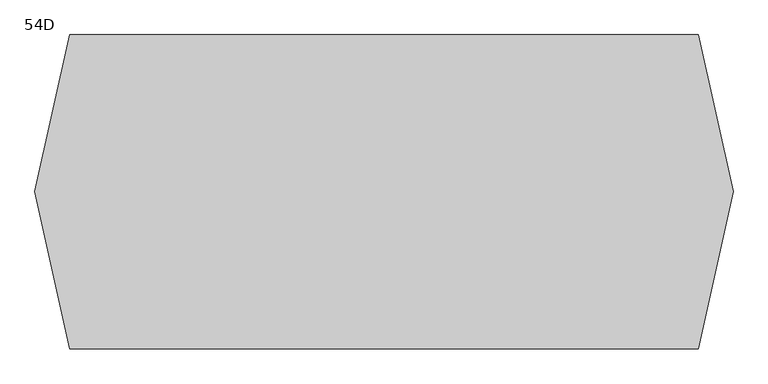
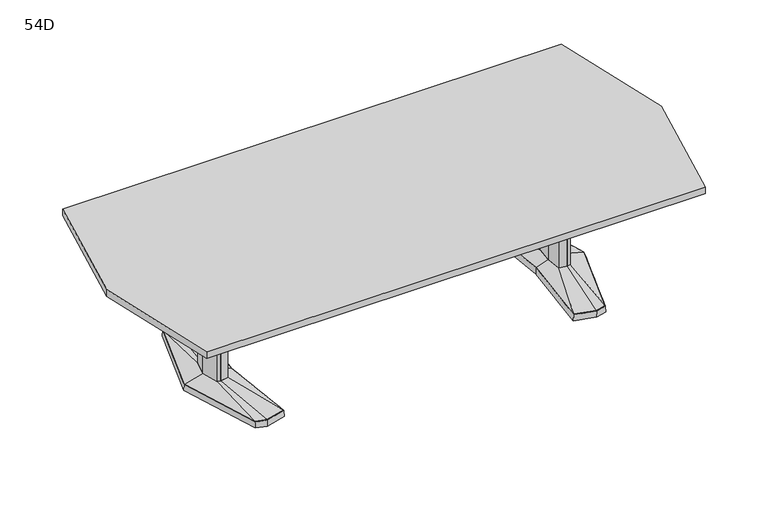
"""IFC4 building model written with IfcOpenShell, lengths in millimetres: furniture geometry, Coalesse_AM_Table_Conference_ETable2_Faceted_10ft_AluminiumBase : 54D."""

import ifcopenshell
import ifcopenshell.guid

model = None  # the IFC model being written
_history = None  # IfcOwnerHistory: only IFC2X3 demands one
_inside = {}  # id of a spatial element -> (the spatial element, [elements in it])
_under = {}  # id of a project, library or spatial element -> (it, [spatial elements below it])
_declared = {}  # id of a project -> (the project, [libraries it declares])
_typed = {}  # id of a type object -> (the type object, [elements of that type])
_made_of = {}  # id of a material, layer set ... -> (it, [elements and type objects made of it])


def new_model(schema):
    """Start an empty IFC model of exactly this schema.

    Asked for "IFC4X3", IfcOpenShell would pick the latest addendum, in which some entities
    have other attributes; the version numbers below select the first issue.
    IFC2X3 requires an IfcOwnerHistory on every rooted entity: one is made here for all.
    """
    global model, _history
    if schema == "IFC4X3":
        model = ifcopenshell.file(schema_version=(4, 3, 0, 0))
    else:
        model = ifcopenshell.file(schema=schema)
    _inside.clear()
    _under.clear()
    _declared.clear()
    _typed.clear()
    _made_of.clear()
    _history = None
    if model.schema == "IFC2X3":
        org = make("IfcOrganization", Name="unknown")
        user = make(
            "IfcPersonAndOrganization",
            ThePerson=make("IfcPerson", FamilyName="unknown"),
            TheOrganization=org,
        )
        app = make(
            "IfcApplication",
            ApplicationDeveloper=org,
            Version="unknown",
            ApplicationFullName="unknown",
            ApplicationIdentifier="unknown",
        )
        _history = make(
            "IfcOwnerHistory",
            OwningUser=user,
            OwningApplication=app,
            ChangeAction="ADDED",
            CreationDate=0,
        )
    return model


def make(cls, **values):
    """One entity of the class cls with the attributes given. An attribute that is None is left unset."""
    return model.create_entity(
        cls, **{name: value for name, value in values.items() if value is not None}
    )


def rooted(cls, **values):
    """An entity with a GlobalId (a new one), such as an element, a storey or a relation."""
    return make(cls, GlobalId=ifcopenshell.guid.new(), OwnerHistory=_history, **values)


def si_unit(unit_type, name, prefix=None):
    """IfcSIUnit, for example si_unit("LENGTHUNIT", "METRE", prefix="MILLI")."""
    return make("IfcSIUnit", UnitType=unit_type, Prefix=prefix, Name=name)


def assignment(units):
    """IfcUnitAssignment: the units of a project."""
    return None if units is None else make("IfcUnitAssignment", Units=units)


def point(xyz):
    """IfcCartesianPoint."""
    return None if xyz is None else make("IfcCartesianPoint", Coordinates=xyz)


def direction(xyz):
    """IfcDirection."""
    return None if xyz is None else make("IfcDirection", DirectionRatios=xyz)


def frame(location, z_axis=None, x_axis=None):
    """IfcAxis2Placement3D, a coordinate frame: its origin and axes. An axis left out is left unset."""
    return make(
        "IfcAxis2Placement3D",
        Location=point(location),
        Axis=direction(z_axis),
        RefDirection=direction(x_axis),
    )


def origin():
    """The frame at (0, 0, 0) with its axes left unset."""
    return frame((0.0, 0.0, 0.0))


def place(relative_to, where):
    """IfcLocalPlacement: puts the frame where relative to a parent placement (None: the world)."""
    return make(
        "IfcLocalPlacement", PlacementRelTo=relative_to, RelativePlacement=where
    )


def context(
    kind, dimensions, precision=None, world=None, true_north=None, identifier=None
):
    """IfcGeometricRepresentationContext, for example the 3D "Model" context."""
    return make(
        "IfcGeometricRepresentationContext",
        ContextIdentifier=identifier,
        ContextType=kind,
        CoordinateSpaceDimension=dimensions,
        Precision=precision,
        WorldCoordinateSystem=world,
        TrueNorth=true_north,
    )


def project(units=None, contexts=None):
    """IfcProject with its units and contexts."""
    return rooted(
        "IfcProject",
        Name="project",
        RepresentationContexts=contexts,
        UnitsInContext=assignment(units),
    )


def spatial(cls, under=None, at=None, **own):
    """A site, building, storey or space (cls), placed at a placement, below another one or the project."""
    s = rooted(cls, ObjectPlacement=at, **own)
    if under is not None:
        _under.setdefault(under.id(), (under, []))[1].append(s)
    return s


def polyline(points):
    """IfcPolyline through the points."""
    return make("IfcPolyline", Points=[point(p) for p in points])


def outline(outer, holes=None, kind="AREA"):
    """IfcArbitraryClosedProfileDef: a profile drawn as a closed curve; with holes, ...WithVoids."""
    if holes is None:
        return make("IfcArbitraryClosedProfileDef", ProfileType=kind, OuterCurve=outer)
    return make(
        "IfcArbitraryProfileDefWithVoids",
        ProfileType=kind,
        OuterCurve=outer,
        InnerCurves=holes,
    )


def extrude(swept, where, along, depth):
    """IfcExtrudedAreaSolid: the profile swept, set in the frame where, extruded along a direction by depth."""
    return make(
        "IfcExtrudedAreaSolid",
        SweptArea=swept,
        Position=where,
        ExtrudedDirection=direction(along),
        Depth=depth,
    )


def faces_of(points, faces, orient=None, outer=None):
    """IfcFace entities. A face is a list of loops; a loop is a list of indices into points, from 0.

    orient and outer hold one flag for each loop. By default every Orientation is true, the
    first loop of a face is its IfcFaceOuterBound and the others are IfcFaceBound.
    """
    made = []
    for i, loops in enumerate(faces):
        bounds = []
        for j, loop in enumerate(loops):
            is_outer = j == 0 if outer is None else outer[i][j]
            bounds.append(
                make(
                    "IfcFaceOuterBound" if is_outer else "IfcFaceBound",
                    Bound=make("IfcPolyLoop", Polygon=[points[k] for k in loop]),
                    Orientation=True if orient is None else orient[i][j],
                )
            )
        made.append(make("IfcFace", Bounds=bounds))
    return made


def faceted_brep(points, faces, orient=None, outer=None, voids=None):
    """IfcFacetedBrep: a solid bounded by flat faces; with voids (closed shells), ...WithVoids."""
    shared = [point(p) for p in points]
    hull = make("IfcClosedShell", CfsFaces=faces_of(shared, faces, orient, outer))
    if voids is None:
        return make("IfcFacetedBrep", Outer=hull)
    return make(
        "IfcFacetedBrepWithVoids",
        Outer=hull,
        Voids=[
            make(cls, CfsFaces=faces_of(shared, fs, o, b)) for cls, fs, o, b in voids
        ],
    )


def shape(context_of_items, identifier, shape_type, items):
    """IfcShapeRepresentation: the items that make up one representation, for example the "Body"."""
    return make(
        "IfcShapeRepresentation",
        ContextOfItems=context_of_items,
        RepresentationIdentifier=identifier,
        RepresentationType=shape_type,
        Items=items,
    )


def source(mapping_origin, context_of_items, identifier, shape_type, items):
    """IfcRepresentationMap: a shape defined once, which mapped items show again and again."""
    return make(
        "IfcRepresentationMap",
        MappingOrigin=mapping_origin,
        MappedRepresentation=shape(context_of_items, identifier, shape_type, items),
    )


def transform(
    local_origin,
    x_axis=None,
    y_axis=None,
    z_axis=None,
    scale=None,
    scale2=None,
    scale3=None,
    uniform=True,
):
    """IfcCartesianTransformationOperator3D, or its non-uniform kind. x_axis, y_axis, z_axis: its Axis1, 2, 3."""
    if uniform:
        return make(
            "IfcCartesianTransformationOperator3D",
            Axis1=direction(x_axis),
            Axis2=direction(y_axis),
            LocalOrigin=point(local_origin),
            Scale=scale,
            Axis3=direction(z_axis),
        )
    return make(
        "IfcCartesianTransformationOperator3DnonUniform",
        Axis1=direction(x_axis),
        Axis2=direction(y_axis),
        LocalOrigin=point(local_origin),
        Scale=scale,
        Axis3=direction(z_axis),
        Scale2=scale2,
        Scale3=scale3,
    )


def mapped(mapping_source, mapping_target):
    """IfcMappedItem: shows the shape of a source again, moved by a transform."""
    return make(
        "IfcMappedItem", MappingSource=mapping_source, MappingTarget=mapping_target
    )


def made_of(thing, what):
    """Note that an element or type object is made of a material, layer set ...; save() writes the relation."""
    if what is not None:
        _made_of.setdefault(what.id(), (what, []))[1].append(thing)
    return thing


def element(
    cls,
    number,
    at=None,
    inside=None,
    cuts=None,
    type_object=None,
    material=None,
    context=None,
    identifier="Body",
    shape_type=None,
    held_by="IfcProductDefinitionShape",
    body=None,
    shapes=None,
    **own,
):
    """One element of the class cls, such as IfcWall. Its Tag is "e" and its number.

    at: its placement. inside: the storey or other place that contains it. cuts: it is an
    opening in that element (IfcRelVoidsElement). A single representation is given by context,
    identifier, shape_type and body (its items); several are given by shapes. held_by: the class
    of the entity that holds the representations. save() writes the other relations.
    """
    e = rooted(cls, Tag="e%d" % number, ObjectPlacement=at, **own)
    if body is not None:
        shapes = [shape(context, identifier, shape_type, body)]
    if shapes is not None:
        e.Representation = make(held_by, Representations=shapes)
    if inside is not None:
        _inside.setdefault(inside.id(), (inside, []))[1].append(e)
    if cuts is not None:
        rooted(
            "IfcRelVoidsElement", RelatingBuildingElement=cuts, RelatedOpeningElement=e
        )
    if type_object is not None:
        _typed.setdefault(type_object.id(), (type_object, []))[1].append(e)
    return made_of(e, material)


def aggregate(whole, parts):
    """IfcRelAggregates: a whole, such as a stair, and the parts it consists of."""
    return rooted("IfcRelAggregates", RelatingObject=whole, RelatedObjects=parts)


def save(model, path):
    """Write the relations noted so far, then the file.

    IfcRelAggregates (storeys below a building ...), IfcRelContainedInSpatialStructure (elements
    in a storey), IfcRelDefinesByType, IfcRelAssociatesMaterial and IfcRelDeclares: one each for
    every whole, place, type object, material and project.
    """
    for whole, parts in _under.values():
        aggregate(whole, parts)
    for where, things in _inside.values():
        rooted(
            "IfcRelContainedInSpatialStructure",
            RelatedElements=things,
            RelatingStructure=where,
        )
    for kind, things in _typed.values():
        rooted("IfcRelDefinesByType", RelatedObjects=things, RelatingType=kind)
    for what, things in _made_of.values():
        rooted("IfcRelAssociatesMaterial", RelatedObjects=things, RelatingMaterial=what)
    for by, libraries in _declared.values():
        rooted("IfcRelDeclares", RelatingContext=by, RelatedDefinitions=libraries)
    model.write(path)


def plane_surface(at):
    """IfcPlane: the flat surface through the origin of the frame at, square to its z axis."""
    return make("IfcPlane", Position=at)


def spline_surface(u_degree, v_degree, points, u_multiplicities, v_multiplicities, u_knots, v_knots, weights=None):
    """IfcBSplineSurfaceWithKnots; with weights, IfcRationalBSplineSurfaceWithKnots. points: one row for each step in u."""
    own = dict(
        UDegree=u_degree,
        VDegree=v_degree,
        ControlPointsList=[[point(p) for p in row] for row in points],
        SurfaceForm="UNSPECIFIED",
        UClosed=False,
        VClosed=False,
        SelfIntersect=False,
        UMultiplicities=u_multiplicities,
        VMultiplicities=v_multiplicities,
        UKnots=u_knots,
        VKnots=v_knots,
        KnotSpec="UNSPECIFIED",
    )
    if weights is None:
        return make("IfcBSplineSurfaceWithKnots", **own)
    return make("IfcRationalBSplineSurfaceWithKnots", WeightsData=weights, **own)


def advanced_brep(points, edges, surfaces, faces):
    """IfcAdvancedBrep: a solid bounded by faces that lie on surfaces and meet in shared edges.

    An edge is (start, end): straight between two places in points (the first is 0);
    or (start, end, curve); or (start, end, curve, False) where it runs against its curve.
    A face is (place in surfaces, loops), or (place, loops, False) where it looks against
    its surface's normal. A loop lists edges by number (the first is 1), with a minus sign
    where the edge is run from its end to its start. The first loop is the outer one.
    """
    corners = [point(p) for p in points]
    vertices = [make("IfcVertexPoint", VertexGeometry=c) for c in corners]
    made = []
    for start, end, *more in edges:
        made.append(
            make(
                "IfcEdgeCurve",
                EdgeStart=vertices[start],
                EdgeEnd=vertices[end],
                EdgeGeometry=more[0] if more else make("IfcPolyline", Points=[corners[start], corners[end]]),
                SameSense=more[1] if len(more) > 1 else True,
            )
        )
    hull = []
    for where, loops, *sense in faces:
        bounds = []
        for j, loop in enumerate(loops):
            ring = [make("IfcOrientedEdge", EdgeElement=made[abs(k) - 1], Orientation=k > 0) for k in loop]
            bounds.append(
                make(
                    "IfcFaceOuterBound" if j == 0 else "IfcFaceBound",
                    Bound=make("IfcEdgeLoop", EdgeList=ring),
                    Orientation=True,
                )
            )
        hull.append(make("IfcAdvancedFace", Bounds=bounds, FaceSurface=surfaces[where], SameSense=sense[0] if sense else True))
    return make("IfcAdvancedBrep", Outer=make("IfcClosedShell", CfsFaces=hull))


def furniture_54d_54c003c1(model_context):
    return source(origin(), model_context, "Body", "SolidModel", [
        faceted_brep([(905.8773747, 455.5848221, 38.1), (796.2998188, 426.2263816, 38.1), (837.4630629, 0.0, 38.1), (796.2998188, -426.2263816, 38.1), (905.8773747, -455.5848221, 38.1), (962.0037308, -440.5478297, 38.1), (1099.3151181, 0.0, 38.1), (962.0037308, 440.5478297, 38.1), (905.8773666, 457.2283104, 3.175), (963.2591384, 441.8549756, 3.175), (1100.9779412, 0.0, 3.175), (963.2591384, -441.8549756, 3.175), (905.8773666, -457.2283104, 3.175), (794.5904412, -427.4118891, 3.175), (835.8681768, 0.0, 3.175), (794.5904412, 427.4118891, 3.175), (909.4668062, 428.3273875, 3.175), (804.418514, 402.1057253, 3.175), (812.5372092, 377.985069, 3.175), (913.0562377, 401.0699529, 3.175), (963.6158637, 387.524361, 3.175), (962.8097973, 414.0360954, 3.175), (909.4668062, -428.3273875, 3.175), (962.8097973, -414.0360954, 3.175), (963.6158637, -387.524361, 3.175), (913.0562377, -401.0699529, 3.175), (812.5372092, -377.985069, 3.175), (804.418514, -402.1057253, 3.175), (1036.0620533, 0.0, 3.175), (1003.7926523, 120.4193755, 3.175), (955.1454133, 133.471665, 3.175), (875.2647438, 119.4176561, 3.175), (864.1335378, 0.0, 3.175), (875.2647438, -119.4176561, 3.175), (955.1454133, -133.471665, 3.175), (1003.7926523, -120.4193755, 3.175), (909.4668062, 428.3273875, 0.0), (962.8097973, 414.0360954, 0.0), (963.6158637, 387.524361, 0.0), (913.0562377, 401.0699529, 0.0), (812.5372092, 377.985069, 0.0), (804.418514, 402.1057253, 0.0), (909.4668062, -428.3273875, 0.0), (804.418514, -402.1057253, 0.0), (812.5372092, -377.985069, 0.0), (913.0562377, -401.0699529, 0.0), (963.6158637, -387.524361, 0.0), (962.8097973, -414.0360954, 0.0), (1036.0620533, 0.0, 0.0), (1003.7926523, -120.4193755, 0.0), (955.1454133, -133.471665, 0.0), (875.2647438, -119.4176561, 0.0), (864.1335378, 0.0, 0.0), (875.2647438, 119.4176561, 0.0), (955.1454133, 133.471665, 0.0), (1003.7926523, 120.4193755, 0.0)], [[[0, 1, 2, 3, 4, 5, 6, 7]], [[8, 9, 10, 11, 12, 13, 14, 15], [16, 17, 18, 19, 20, 21], [22, 23, 24, 25, 26, 27], [28, 29, 30, 31, 32, 33, 34, 35]], [[7, 9, 8, 0]], [[6, 10, 9, 7]], [[5, 11, 10, 6]], [[4, 12, 11, 5]], [[3, 13, 12, 4]], [[2, 14, 13, 3]], [[1, 15, 14, 2]], [[0, 8, 15, 1]], [[36, 37, 38, 39, 40, 41]], [[42, 43, 44, 45, 46, 47]], [[48, 49, 50, 51, 52, 53, 54, 55]], [[36, 16, 21, 37]], [[37, 21, 20, 38]], [[38, 20, 19, 39]], [[39, 19, 18, 40]], [[40, 18, 17, 41]], [[41, 17, 16, 36]], [[42, 22, 27, 43]], [[43, 27, 26, 44]], [[44, 26, 25, 45]], [[45, 25, 24, 46]], [[46, 24, 23, 47]], [[47, 23, 22, 42]], [[48, 28, 35, 49]], [[49, 35, 34, 50]], [[50, 34, 33, 51]], [[51, 33, 32, 52]], [[52, 32, 31, 53]], [[53, 31, 30, 54]], [[54, 30, 29, 55]], [[55, 29, 28, 48]]]),
        faceted_brep([(996.6177748, 0.0, 698.5), (972.6825457, 89.3188359, 698.5), (955.8291896, 93.8406728, 698.5), (953.4293423, 94.4845635, 698.5), (910.5018372, 86.9320037, 698.5), (902.3986967, 0.0, 698.5), (910.5018372, -86.9320037, 698.5), (953.4293423, -94.4845635, 698.5), (955.8291896, -93.8406728, 698.5), (972.6825457, -89.3188359, 698.5), (996.6177748, 0.0, 63.5), (972.6825457, -89.3188359, 63.5), (955.8291896, -93.8406728, 63.5), (953.4293423, -94.4845635, 63.5), (910.5018372, -86.9320037, 63.5), (902.3986967, 0.0, 63.5), (910.5018372, 86.9320037, 63.5), (953.4293423, 94.4845635, 63.5), (955.8291896, 93.8406728, 63.5), (972.6825457, 89.3188359, 63.5)], [[[0, 1, 2, 3, 4, 5, 6, 7, 8, 9]], [[10, 11, 12, 13, 14, 15, 16, 17, 18, 19]], [[9, 11, 10, 0]], [[8, 12, 11, 9]], [[7, 13, 12, 8]], [[6, 14, 13, 7]], [[5, 15, 14, 6]], [[4, 16, 15, 5]], [[3, 17, 16, 4]], [[2, 18, 17, 3]], [[1, 19, 18, 2]], [[0, 10, 19, 1]]]),
        advanced_brep(
        [(953.4293423, 94.4845635, 63.5), (910.5018372, 86.9320037, 63.5), (902.3986967, 0.0, 63.5), (910.5018372, -86.9320037, 63.5), (953.4293423, -94.4845635, 63.5), (972.6825457, -89.3188359, 63.5), (996.6177748, 0.0, 63.5), (972.6825457, 89.3188359, 63.5), (905.8773747, 455.5848221, 38.1), (962.0037308, 440.5478297, 38.1), (1099.3151181, 0.0, 38.1), (962.0037308, -440.5478297, 38.1), (905.8773747, -455.5848221, 38.1), (796.2998188, -426.2263816, 38.1), (837.4630629, 0.0, 38.1), (796.2998188, 426.2263816, 38.1)],
        [
            (0, 1),
            (1, 2),
            (2, 3),
            (3, 4),
            (4, 5),
            (5, 6),
            (6, 7),
            (7, 0),
            (8, 9),
            (9, 10),
            (10, 11),
            (11, 12),
            (12, 13),
            (13, 14),
            (14, 15),
            (15, 8),
            (8, 0),
            (7, 9),
            (6, 10),
            (5, 11),
            (4, 12),
            (3, 13),
            (2, 14),
            (1, 15),
        ],
        [
            plane_surface(frame((946.5304902, 0.0, 63.5), z_axis=(0.0, 0.0, 1.0), x_axis=(-0.25884244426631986, -0.9659195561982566, 0.0))),
            plane_surface(frame((908.1425037, 0.0, 38.1), z_axis=(0.0, 0.0, -1.0), x_axis=(-0.25884244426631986, -0.9659195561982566, 0.0))),
            spline_surface(1, 1, [[(905.8773747, 455.5848221, 38.1), (962.0037308, 440.5478297, 38.1)], [(953.4293423, 94.4845635, 63.5), (972.6825457, 89.3188359, 63.5)]], [2, 2], [2, 2], [0.0, 1.0], [0.0, 1.0]),
            spline_surface(1, 1, [[(962.0037308, 440.5478297, 38.1), (1099.3151181, 0.0, 38.1)], [(972.6825457, 89.3188359, 63.5), (996.6177748, 0.0, 63.5)]], [2, 2], [2, 2], [0.0, 1.0], [0.0, 1.0]),
            spline_surface(1, 1, [[(1099.3151181, 0.0, 38.1), (962.0037308, -440.5478297, 38.1)], [(996.6177748, 0.0, 63.5), (972.6825457, -89.3188359, 63.5)]], [2, 2], [2, 2], [0.0, 1.0], [0.0, 1.0]),
            spline_surface(1, 1, [[(962.0037308, -440.5478297, 38.1), (905.8773747, -455.5848221, 38.1)], [(972.6825457, -89.3188359, 63.5), (953.4293423, -94.4845635, 63.5)]], [2, 2], [2, 2], [0.0, 1.0], [0.0, 1.0]),
            spline_surface(1, 1, [[(905.8773747, -455.5848221, 38.1), (796.2998188, -426.2263816, 38.1)], [(953.4293423, -94.4845635, 63.5), (910.5018372, -86.9320037, 63.5)]], [2, 2], [2, 2], [0.0, 1.0], [0.0, 1.0]),
            spline_surface(1, 1, [[(796.2998188, -426.2263816, 38.1), (837.4630629, 0.0, 38.1)], [(910.5018372, -86.9320037, 63.5), (902.3986967, 0.0, 63.5)]], [2, 2], [2, 2], [0.0, 1.0], [0.0, 1.0]),
            spline_surface(1, 1, [[(837.4630629, 0.0, 38.1), (796.2998188, 426.2263816, 38.1)], [(902.3986967, 0.0, 63.5), (910.5018372, 86.9320037, 63.5)]], [2, 2], [2, 2], [0.0, 1.0], [0.0, 1.0]),
            spline_surface(1, 1, [[(796.2998188, 426.2263816, 38.1), (905.8773747, 455.5848221, 38.1)], [(910.5018372, 86.9320037, 63.5), (953.4293423, 94.4845635, 63.5)]], [2, 2], [2, 2], [0.0, 1.0], [0.0, 1.0]),
        ],
        [
            (0, [[1, 2, 3, 4, 5, 6, 7, 8]]),
            (1, [[9, 10, 11, 12, 13, 14, 15, 16]]),
            (2, [[17, -8, 18, -9]]),
            (3, [[-18, -7, 19, -10]]),
            (4, [[-19, -6, 20, -11]]),
            (5, [[-20, -5, 21, -12]]),
            (6, [[-21, -4, 22, -13]]),
            (7, [[-22, -3, 23, -14]]),
            (8, [[-23, -2, 24, -15]]),
            (9, [[-24, -1, -17, -16]]),
        ],
    ),
        faceted_brep([(-905.8306835, 455.5848221, 38.1), (-961.9570396, 440.5478297, 38.1), (-1099.2684269, 0.0, 38.1), (-961.9570396, -440.5478297, 38.1), (-905.8306835, -455.5848221, 38.1), (-796.2531277, -426.2263816, 38.1), (-837.4163717, 0.0, 38.1), (-796.2531277, 426.2263816, 38.1), (-905.8306754, 457.2283104, 3.175), (-794.54375, 427.4118891, 3.175), (-835.8214856, 0.0, 3.175), (-794.54375, -427.4118891, 3.175), (-905.8306754, -457.2283104, 3.175), (-963.2124472, -441.8549756, 3.175), (-1100.93125, 0.0, 3.175), (-963.2124472, 441.8549756, 3.175), (-909.420115, 428.3273875, 3.175), (-962.7631061, 414.0360954, 3.175), (-963.5691725, 387.524361, 3.175), (-913.0095466, 401.0699529, 3.175), (-812.490518, 377.985069, 3.175), (-804.3718228, 402.1057253, 3.175), (-909.420115, -428.3273875, 3.175), (-804.3718228, -402.1057253, 3.175), (-812.490518, -377.985069, 3.175), (-913.0095466, -401.0699529, 3.175), (-963.5691725, -387.524361, 3.175), (-962.7631061, -414.0360954, 3.175), (-1036.0153621, 0.0, 3.175), (-1003.7459611, -120.4193755, 3.175), (-955.0987222, -133.471665, 3.175), (-875.2180526, -119.4176561, 3.175), (-864.0868466, 0.0, 3.175), (-875.2180526, 119.4176561, 3.175), (-955.0987222, 133.471665, 3.175), (-1003.7459611, 120.4193755, 3.175), (-909.420115, 428.3273875, 0.0), (-804.3718228, 402.1057253, 0.0), (-812.490518, 377.985069, 0.0), (-913.0095466, 401.0699529, 0.0), (-963.5691725, 387.524361, 0.0), (-962.7631061, 414.0360954, 0.0), (-909.420115, -428.3273875, 0.0), (-962.7631061, -414.0360954, 0.0), (-963.5691725, -387.524361, 0.0), (-913.0095466, -401.0699529, 0.0), (-812.490518, -377.985069, 0.0), (-804.3718228, -402.1057253, 0.0), (-1036.0153621, 0.0, 0.0), (-1003.7459611, 120.4193755, 0.0), (-955.0987222, 133.471665, 0.0), (-875.2180526, 119.4176561, 0.0), (-864.0868466, 0.0, 0.0), (-875.2180526, -119.4176561, 0.0), (-955.0987222, -133.471665, 0.0), (-1003.7459611, -120.4193755, 0.0)], [[[0, 1, 2, 3, 4, 5, 6, 7]], [[8, 9, 10, 11, 12, 13, 14, 15], [16, 17, 18, 19, 20, 21], [22, 23, 24, 25, 26, 27], [28, 29, 30, 31, 32, 33, 34, 35]], [[1, 0, 8, 15]], [[2, 1, 15, 14]], [[3, 2, 14, 13]], [[4, 3, 13, 12]], [[5, 4, 12, 11]], [[6, 5, 11, 10]], [[7, 6, 10, 9]], [[0, 7, 9, 8]], [[36, 37, 38, 39, 40, 41]], [[42, 43, 44, 45, 46, 47]], [[48, 49, 50, 51, 52, 53, 54, 55]], [[36, 41, 17, 16]], [[41, 40, 18, 17]], [[40, 39, 19, 18]], [[39, 38, 20, 19]], [[38, 37, 21, 20]], [[37, 36, 16, 21]], [[42, 47, 23, 22]], [[47, 46, 24, 23]], [[46, 45, 25, 24]], [[45, 44, 26, 25]], [[44, 43, 27, 26]], [[43, 42, 22, 27]], [[48, 55, 29, 28]], [[55, 54, 30, 29]], [[54, 53, 31, 30]], [[53, 52, 32, 31]], [[52, 51, 33, 32]], [[51, 50, 34, 33]], [[50, 49, 35, 34]], [[49, 48, 28, 35]]]),
        faceted_brep([(-996.5710836, 0.0, 698.5), (-972.6358546, -89.3188359, 698.5), (-955.7824984, -93.8406728, 698.5), (-953.3826511, -94.4845635, 698.5), (-910.455146, -86.9320037, 698.5), (-902.3520056, 0.0, 698.5), (-910.455146, 86.9320037, 698.5), (-953.3826511, 94.4845635, 698.5), (-955.7824984, 93.8406728, 698.5), (-972.6358546, 89.3188359, 698.5), (-996.5710836, 0.0, 63.5), (-972.6358546, 89.3188359, 63.5), (-955.7824984, 93.8406728, 63.5), (-953.3826511, 94.4845635, 63.5), (-910.455146, 86.9320037, 63.5), (-902.3520056, 0.0, 63.5), (-910.455146, -86.9320037, 63.5), (-953.3826511, -94.4845635, 63.5), (-955.7824984, -93.8406728, 63.5), (-972.6358546, -89.3188359, 63.5)], [[[0, 1, 2, 3, 4, 5, 6, 7, 8, 9]], [[10, 11, 12, 13, 14, 15, 16, 17, 18, 19]], [[1, 0, 10, 19]], [[2, 1, 19, 18]], [[3, 2, 18, 17]], [[4, 3, 17, 16]], [[5, 4, 16, 15]], [[6, 5, 15, 14]], [[7, 6, 14, 13]], [[8, 7, 13, 12]], [[9, 8, 12, 11]], [[0, 9, 11, 10]]]),
        advanced_brep(
        [(-953.3826511, 94.4845635, 63.5), (-972.6358546, 89.3188359, 63.5), (-996.5710836, 0.0, 63.5), (-972.6358546, -89.3188359, 63.5), (-953.3826511, -94.4845635, 63.5), (-910.455146, -86.9320037, 63.5), (-902.3520056, 0.0, 63.5), (-910.455146, 86.9320037, 63.5), (-905.8306835, 455.5848221, 38.1), (-796.2531277, 426.2263816, 38.1), (-837.4163717, 0.0, 38.1), (-796.2531277, -426.2263816, 38.1), (-905.8306835, -455.5848221, 38.1), (-961.9570396, -440.5478297, 38.1), (-1099.2684269, 0.0, 38.1), (-961.9570396, 440.5478297, 38.1)],
        [
            (0, 1),
            (1, 2),
            (2, 3),
            (3, 4),
            (4, 5),
            (5, 6),
            (6, 7),
            (7, 0),
            (8, 9),
            (9, 10),
            (10, 11),
            (11, 12),
            (12, 13),
            (13, 14),
            (14, 15),
            (15, 8),
            (15, 1),
            (0, 8),
            (14, 2),
            (13, 3),
            (12, 4),
            (11, 5),
            (10, 6),
            (9, 7),
        ],
        [
            plane_surface(frame((-946.4837991, 0.0, 63.5), z_axis=(0.0, 0.0, 1.0), x_axis=(0.25884244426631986, -0.9659195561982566, 0.0))),
            plane_surface(frame((-908.0958125, 0.0, 38.1), z_axis=(0.0, 0.0, -1.0), x_axis=(0.25884244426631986, -0.9659195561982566, 0.0))),
            spline_surface(1, 1, [[(-905.8306835, 455.5848221, 38.1), (-953.3826511, 94.4845635, 63.5)], [(-961.9570396, 440.5478297, 38.1), (-972.6358546, 89.3188359, 63.5)]], [2, 2], [2, 2], [0.0, 1.0], [0.0, 1.0]),
            spline_surface(1, 1, [[(-961.9570396, 440.5478297, 38.1), (-972.6358546, 89.3188359, 63.5)], [(-1099.2684269, 0.0, 38.1), (-996.5710836, 0.0, 63.5)]], [2, 2], [2, 2], [0.0, 1.0], [0.0, 1.0]),
            spline_surface(1, 1, [[(-1099.2684269, 0.0, 38.1), (-996.5710836, 0.0, 63.5)], [(-961.9570396, -440.5478297, 38.1), (-972.6358546, -89.3188359, 63.5)]], [2, 2], [2, 2], [0.0, 1.0], [0.0, 1.0]),
            spline_surface(1, 1, [[(-961.9570396, -440.5478297, 38.1), (-972.6358546, -89.3188359, 63.5)], [(-905.8306835, -455.5848221, 38.1), (-953.3826511, -94.4845635, 63.5)]], [2, 2], [2, 2], [0.0, 1.0], [0.0, 1.0]),
            spline_surface(1, 1, [[(-905.8306835, -455.5848221, 38.1), (-953.3826511, -94.4845635, 63.5)], [(-796.2531277, -426.2263816, 38.1), (-910.455146, -86.9320037, 63.5)]], [2, 2], [2, 2], [0.0, 1.0], [0.0, 1.0]),
            spline_surface(1, 1, [[(-796.2531277, -426.2263816, 38.1), (-910.455146, -86.9320037, 63.5)], [(-837.4163717, 0.0, 38.1), (-902.3520056, 0.0, 63.5)]], [2, 2], [2, 2], [0.0, 1.0], [0.0, 1.0]),
            spline_surface(1, 1, [[(-837.4163717, 0.0, 38.1), (-902.3520056, 0.0, 63.5)], [(-796.2531277, 426.2263816, 38.1), (-910.455146, 86.9320037, 63.5)]], [2, 2], [2, 2], [0.0, 1.0], [0.0, 1.0]),
            spline_surface(1, 1, [[(-796.2531277, 426.2263816, 38.1), (-910.455146, 86.9320037, 63.5)], [(-905.8306835, 455.5848221, 38.1), (-953.3826511, 94.4845635, 63.5)]], [2, 2], [2, 2], [0.0, 1.0], [0.0, 1.0]),
        ],
        [
            (0, [[1, 2, 3, 4, 5, 6, 7, 8]]),
            (1, [[9, 10, 11, 12, 13, 14, 15, 16]]),
            (2, [[-16, 17, -1, 18]]),
            (3, [[-15, 19, -2, -17]]),
            (4, [[-14, 20, -3, -19]]),
            (5, [[-13, 21, -4, -20]]),
            (6, [[-12, 22, -5, -21]]),
            (7, [[-11, 23, -6, -22]]),
            (8, [[-10, 24, -7, -23]]),
            (9, [[-9, -18, -8, -24]]),
        ],
    ),
        extrude(outline(polyline([(-1524.0, 0.0), (-1371.9609518, 685.8), (1371.9609518, 685.8), (1524.0, 0.0), (1371.9609518, -685.8), (-1371.9609518, -685.8), (-1524.0, 0.0)])), frame((0.0, 0.0, 698.5), z_axis=(0.0, 0.0, 1.0), x_axis=(1.0, 0.0, 0.0)), (0.0, 0.0, 1.0), 38.1),
        extrude(outline(polyline([(96.8375, 698.5), (103.1875, 698.5), (103.1875, 476.25), (-103.1875, 476.25), (-103.1875, 698.5), (-96.8375, 698.5), (-96.8375, 482.6), (96.8375, 482.6), (96.8375, 698.5)])), frame((-902.3520056, 0.0, 0.0), z_axis=(1.0, 0.0, 0.0), x_axis=(0.0, 1.0, 0.0)), (0.0, 0.0, 1.0), 1804.7507023),
    ])


if __name__ == "__main__":
    model = new_model("IFC4")
    model_context = context("Model", 3, world=origin())
    ifc_project = project(units=[si_unit("LENGTHUNIT", "METRE", prefix="MILLI")], contexts=[model_context])
    site = spatial("IfcSite", under=ifc_project)
    building = spatial("IfcBuilding", under=site)
    placement = place(None, origin())
    furniture_54d_shape = furniture_54d_54c003c1(model_context)
    element("IfcFurniture", 1, ObjectType="Coalesse_AM_Table_Conference_ETable2_Faceted_10ft_AluminiumBase : 54D", at=placement, inside=building, context=model_context, shape_type="MappedRepresentation", body=[
        mapped(furniture_54d_shape, transform((0.0, 0.0, 0.0), x_axis=(1.0, 0.0, 0.0), y_axis=(0.0, 1.0, 0.0), z_axis=(0.0, 0.0, 1.0))),
    ])
    save(model, "model.ifc")
